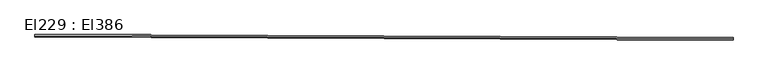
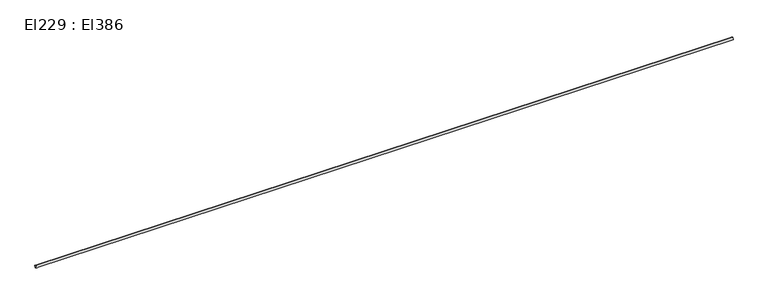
"""IFC4 building model written with IfcOpenShell, lengths in millimetres: cable carrier segment geometry, El229 : El386."""

from ifc_helpers import new_model, si_unit, point, frame, frame_2d, origin, place, context, project, spatial, circle_curve, trimmed, segment, composite_curve, outline, extrude, source, transform, mapped, element, save


def el229_el386_fc9da1af(model_context):
    return source(origin(), model_context, "Body", "SweptSolid", [
        extrude(outline(composite_curve([segment(trimmed(circle_curve(frame_2d((0.0, -9.5)), 9.5), [point((0.0, -19.0))], [point((0.0, 0.0))], False, "CARTESIAN"), True, "CONTINUOUS"), segment(trimmed(circle_curve(frame_2d((0.0, -9.5)), 9.5), [point((0.0, 0.0))], [point((0.0, -19.0))], False, "CARTESIAN"), True, "CONTINUOUS")], self_intersect=False)), frame((19281.7796375, 12790.7475511, 1509.5), z_axis=(-0.9999914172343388, 0.004143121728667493, 0.0), x_axis=(-0.004143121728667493, -0.9999914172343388, 0.0)), (0.0, 0.0, 1.0), 5244.65),
    ])


if __name__ == "__main__":
    model = new_model("IFC4")
    model_context = context("Model", 3, world=origin())
    ifc_project = project(units=[si_unit("LENGTHUNIT", "METRE", prefix="MILLI")], contexts=[model_context])
    site = spatial("IfcSite", under=ifc_project)
    building = spatial("IfcBuilding", under=site)
    placement = place(None, origin())
    el229_el386_shape = el229_el386_fc9da1af(model_context)
    element("IfcCableCarrierSegment", 1, ObjectType="El229 : El386", at=placement, inside=building, context=model_context, shape_type="MappedRepresentation", body=[
        mapped(el229_el386_shape, transform((0.0, 0.0, 0.0), x_axis=(1.0, 0.0, 0.0), y_axis=(0.0, 1.0, 0.0), z_axis=(0.0, 0.0, 1.0))),
    ])
    save(model, "model.ifc")
